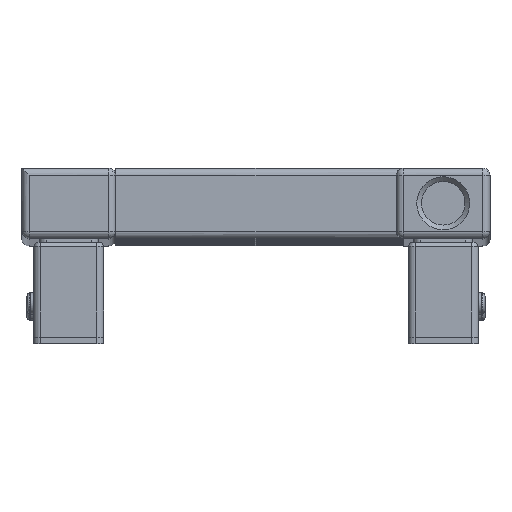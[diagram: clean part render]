
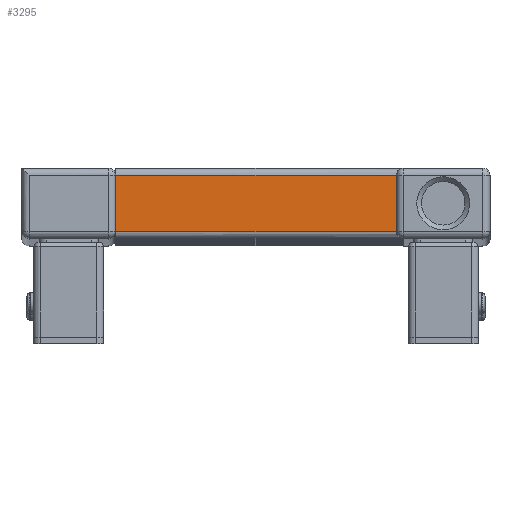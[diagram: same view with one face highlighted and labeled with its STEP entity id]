
A CAD part, top view. The second image highlights one B-rep face of the part: STEP entity #3295.
In plain terms, the highlighted planar face has unit normal (0, 0, 1).
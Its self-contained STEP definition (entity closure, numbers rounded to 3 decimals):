
#3228=CARTESIAN_POINT('',(60.,-12.,1860.0));
#3229=VERTEX_POINT('',#3228);
#3239=CARTESIAN_POINT('',(-60.0,-12.,1860.0));
#3240=VERTEX_POINT('',#3239);
#3241=CARTESIAN_POINT('',(-60.0,-12.,1860.0));
#3242=DIRECTION('',(1.0,0.0,0.0));
#3243=VECTOR('',#3242,120.0);
#3244=LINE('',#3241,#3243);
#3245=EDGE_CURVE('',#3240,#3229,#3244,.T.);
#3265=CARTESIAN_POINT('',(-60.0,-12.,1860.0));
#3266=DIRECTION('',(0.0,0.0,1.0));
#3267=DIRECTION('',(1.0,0.0,0.0));
#3268=AXIS2_PLACEMENT_3D('',#3265,#3266,#3267);
#3269=PLANE('',#3268);
#3270=CARTESIAN_POINT('',(60.0,12.,1860.0));
#3271=VERTEX_POINT('',#3270);
#3272=CARTESIAN_POINT('',(60.0,12.,1860.0));
#3273=DIRECTION('',(0.0,-1.0,0.0));
#3274=VECTOR('',#3273,24.);
#3275=LINE('',#3272,#3274);
#3276=EDGE_CURVE('',#3271,#3229,#3275,.T.);
#3277=ORIENTED_EDGE('',*,*,#3276,.F.);
#3278=CARTESIAN_POINT('',(-60.0,12.,1860.0));
#3279=VERTEX_POINT('',#3278);
#3280=CARTESIAN_POINT('',(-60.0,12.,1860.0));
#3281=DIRECTION('',(1.0,0.0,0.0));
#3282=VECTOR('',#3281,120.0);
#3283=LINE('',#3280,#3282);
#3284=EDGE_CURVE('',#3279,#3271,#3283,.T.);
#3285=ORIENTED_EDGE('',*,*,#3284,.F.);
#3286=CARTESIAN_POINT('',(-60.0,-12.,1860.0));
#3287=DIRECTION('',(0.0,1.0,0.0));
#3288=VECTOR('',#3287,24.);
#3289=LINE('',#3286,#3288);
#3290=EDGE_CURVE('',#3240,#3279,#3289,.T.);
#3291=ORIENTED_EDGE('',*,*,#3290,.F.);
#3292=ORIENTED_EDGE('',*,*,#3245,.T.);
#3293=EDGE_LOOP('',(#3277,#3285,#3291,#3292));
#3294=FACE_OUTER_BOUND('',#3293,.T.);
#3295=ADVANCED_FACE('',(#3294),#3269,.T.);
